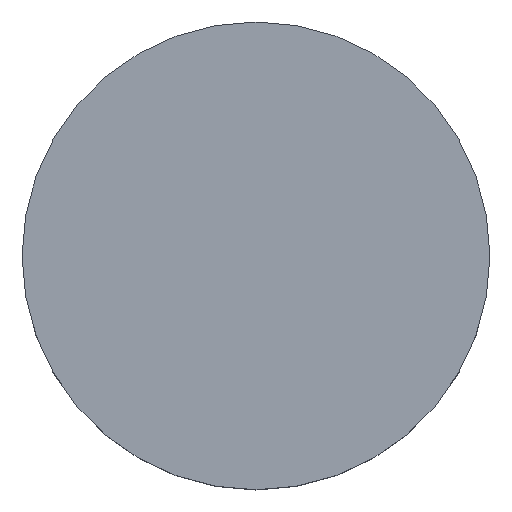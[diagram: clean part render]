
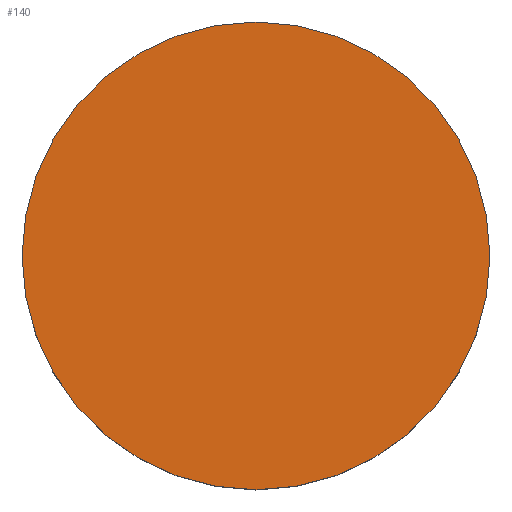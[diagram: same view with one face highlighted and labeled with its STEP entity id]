
A CAD part, top view. The second image highlights one B-rep face of the part: STEP entity #140.
In plain terms, the highlighted planar face has unit normal (0, 0, 1).
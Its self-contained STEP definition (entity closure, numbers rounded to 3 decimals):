
#24 = VERTEX_POINT('',#25);
#25 = CARTESIAN_POINT('',(-4.25,-16.52,2.515));
#32 = CYLINDRICAL_SURFACE('',#33,1.);
#33 = AXIS2_PLACEMENT_3D('',#34,#35,#36);
#34 = CARTESIAN_POINT('',(-5.25,-16.52,2.015));
#35 = DIRECTION('',(-0.,-0.,-1.));
#36 = DIRECTION('',(1.,0.,0.));
#51 = EDGE_CURVE('',#24,#24,#52,.T.);
#52 = SURFACE_CURVE('',#53,(#58,#65),.PCURVE_S1.);
#53 = CIRCLE('',#54,1.);
#54 = AXIS2_PLACEMENT_3D('',#55,#56,#57);
#55 = CARTESIAN_POINT('',(-5.25,-16.52,2.515));
#56 = DIRECTION('',(0.,0.,1.));
#57 = DIRECTION('',(1.,0.,0.));
#58 = PCURVE('',#32,#59);
#59 = DEFINITIONAL_REPRESENTATION('',(#60),#64);
#60 = LINE('',#61,#62);
#61 = CARTESIAN_POINT('',(-0.,-0.5));
#62 = VECTOR('',#63,1.);
#63 = DIRECTION('',(-1.,0.));
#64 = ( GEOMETRIC_REPRESENTATION_CONTEXT(2) 
PARAMETRIC_REPRESENTATION_CONTEXT() REPRESENTATION_CONTEXT('2D SPACE',''
  ) );
#65 = PCURVE('',#66,#71);
#66 = PLANE('',#67);
#67 = AXIS2_PLACEMENT_3D('',#68,#69,#70);
#68 = CARTESIAN_POINT('',(-5.25,-16.52,2.515));
#69 = DIRECTION('',(0.,0.,1.));
#70 = DIRECTION('',(1.,0.,-0.));
#71 = DEFINITIONAL_REPRESENTATION('',(#72),#76);
#72 = CIRCLE('',#73,1.);
#73 = AXIS2_PLACEMENT_2D('',#74,#75);
#74 = CARTESIAN_POINT('',(0.,0.));
#75 = DIRECTION('',(1.,0.));
#76 = ( GEOMETRIC_REPRESENTATION_CONTEXT(2) 
PARAMETRIC_REPRESENTATION_CONTEXT() REPRESENTATION_CONTEXT('2D SPACE',''
  ) );
#140 = ADVANCED_FACE('',(#141),#66,.T.);
#141 = FACE_BOUND('',#142,.T.);
#142 = EDGE_LOOP('',(#143));
#143 = ORIENTED_EDGE('',*,*,#51,.T.);
